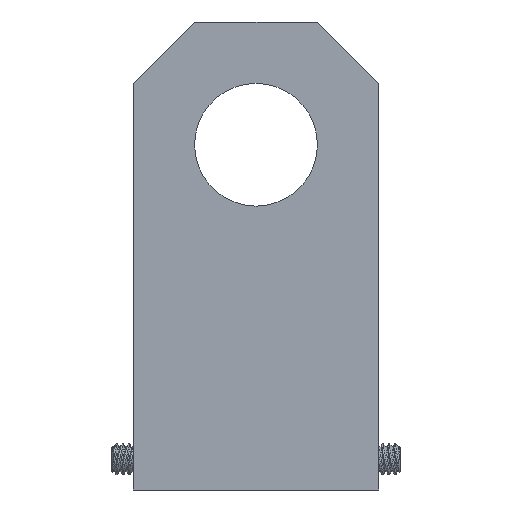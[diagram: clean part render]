
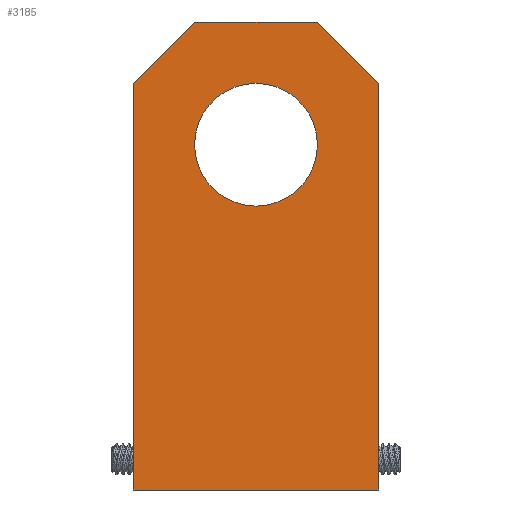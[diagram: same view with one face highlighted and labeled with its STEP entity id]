
A CAD part, left-side view. The second image highlights one B-rep face of the part: STEP entity #3185.
In plain terms, the highlighted planar face has unit normal (-1, 0, 0).
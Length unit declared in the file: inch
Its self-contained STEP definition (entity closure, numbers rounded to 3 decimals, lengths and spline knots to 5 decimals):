
#615 = CARTESIAN_POINT ( 'NONE',  ( 13.38908, 5.55097, 2.8125 ) ) ;
#619 = CARTESIAN_POINT ( 'NONE',  ( 13.38908, 5.05097, 3.3125 ) ) ;
#969 = CARTESIAN_POINT ( 'NONE',  ( 13.38908, 6.05097, 2.8125 ) ) ;
#970 = DIRECTION ( 'NONE',  ( 1., 0., 0. ) ) ;
#971 = DIRECTION ( 'NONE',  ( 0., 1., 0. ) ) ;
#982 = VERTEX_POINT ( 'NONE', #619 ) ;
#985 = VERTEX_POINT ( 'NONE', #615 ) ;
#992 = VERTEX_POINT ( 'NONE', #7402 ) ;
#1000 = VERTEX_POINT ( 'NONE', #7409 ) ;
#1004 = VERTEX_POINT ( 'NONE', #7413 ) ;
#1005 = VERTEX_POINT ( 'NONE', #7414 ) ;
#1006 = VERTEX_POINT ( 'NONE', #7415 ) ;
#1008 = VERTEX_POINT ( 'NONE', #7417 ) ;
#1073 = EDGE_LOOP ( 'NONE', ( #4963, #4964, #4965, #4966, #4967, #4968 ) ) ;
#1079 = EDGE_LOOP ( 'NONE', ( #4961, #4962 ) ) ;
#2736 = FACE_OUTER_BOUND ( 'NONE', #1073, .T. ) ;
#2738 = FACE_BOUND ( 'NONE', #1079, .T. ) ;
#2740 = VECTOR ( 'NONE', #3976, 39.37008 ) ;
#2741 = LINE ( 'NONE', #3966, #2740 ) ;
#3106 = CIRCLE ( 'NONE', #3639, 0.5 ) ;
#3138 = LINE ( 'NONE', #5222, #3146 ) ;
#3144 = VECTOR ( 'NONE', #5228, 39.37008 ) ;
#3146 = VECTOR ( 'NONE', #5223, 39.37008 ) ;
#3161 = LINE ( 'NONE', #5227, #3144 ) ;
#3177 = CIRCLE ( 'NONE', #3651, 0.5 ) ;
#3185 = ADVANCED_FACE ( 'NONE', ( #2738, #2736 ), #3963, .F. ) ;
#3190 = LINE ( 'NONE', #5249, #3192 ) ;
#3192 = VECTOR ( 'NONE', #5250, 39.37008 ) ;
#3198 = LINE ( 'NONE', #5244, #3200 ) ;
#3200 = VECTOR ( 'NONE', #5259, 39.37008 ) ;
#3212 = LINE ( 'NONE', #5350, #3226 ) ;
#3226 = VECTOR ( 'NONE', #5351, 39.37008 ) ;
#3600 = AXIS2_PLACEMENT_3D ( 'NONE', #3958, #3964, #3965 ) ;
#3639 = AXIS2_PLACEMENT_3D ( 'NONE', #969, #970, #971 ) ;
#3651 = AXIS2_PLACEMENT_3D ( 'NONE', #5232, #5234, #5235 ) ;
#3958 = CARTESIAN_POINT ( 'NONE',  ( 13.38908, 7.05097, 3.8125 ) ) ;
#3963 = PLANE ( 'NONE',  #3600 ) ;
#3964 = DIRECTION ( 'NONE',  ( 1., 0., 0. ) ) ;
#3965 = DIRECTION ( 'NONE',  ( 0., 1., 0. ) ) ;
#3966 = CARTESIAN_POINT ( 'NONE',  ( 13.38908, 7.05097, 3.8125 ) ) ;
#3976 = DIRECTION ( 'NONE',  ( 0., -1., 0. ) ) ;
#4961 = ORIENTED_EDGE ( 'NONE', *, *, #6066, .T. ) ;
#4962 = ORIENTED_EDGE ( 'NONE', *, *, #6040, .T. ) ;
#4963 = ORIENTED_EDGE ( 'NONE', *, *, #6064, .F. ) ;
#4964 = ORIENTED_EDGE ( 'NONE', *, *, #6076, .T. ) ;
#4965 = ORIENTED_EDGE ( 'NONE', *, *, #5861, .F. ) ;
#4966 = ORIENTED_EDGE ( 'NONE', *, *, #6072, .T. ) ;
#4967 = ORIENTED_EDGE ( 'NONE', *, *, #6091, .T. ) ;
#4968 = ORIENTED_EDGE ( 'NONE', *, *, #6062, .T. ) ;
#5222 = CARTESIAN_POINT ( 'NONE',  ( 13.38908, 7.05097, 0. ) ) ;
#5223 = DIRECTION ( 'NONE',  ( 0., -1., 0. ) ) ;
#5227 = CARTESIAN_POINT ( 'NONE',  ( 13.38908, 5.05097, 3.8125 ) ) ;
#5228 = DIRECTION ( 'NONE',  ( 0., 0., -1. ) ) ;
#5232 = CARTESIAN_POINT ( 'NONE',  ( 13.38908, 6.05097, 2.8125 ) ) ;
#5234 = DIRECTION ( 'NONE',  ( 1., 0., 0. ) ) ;
#5235 = DIRECTION ( 'NONE',  ( 0., 1., 0. ) ) ;
#5244 = CARTESIAN_POINT ( 'NONE',  ( 13.38908, 5.55097, 3.8125 ) ) ;
#5249 = CARTESIAN_POINT ( 'NONE',  ( 13.38908, 6.55097, 3.8125 ) ) ;
#5250 = DIRECTION ( 'NONE',  ( 0., 0.707, -0.707 ) ) ;
#5259 = DIRECTION ( 'NONE',  ( 0., 0.707, 0.707 ) ) ;
#5350 = CARTESIAN_POINT ( 'NONE',  ( 13.38908, 7.05097, 3.8125 ) ) ;
#5351 = DIRECTION ( 'NONE',  ( 0., 0., -1. ) ) ;
#5861 = EDGE_CURVE ( 'NONE', #1005, #992, #2741, .T. ) ;
#6040 = EDGE_CURVE ( 'NONE', #985, #1000, #3106, .T. ) ;
#6062 = EDGE_CURVE ( 'NONE', #1008, #1006, #3138, .T. ) ;
#6064 = EDGE_CURVE ( 'NONE', #982, #1006, #3161, .T. ) ;
#6066 = EDGE_CURVE ( 'NONE', #1000, #985, #3177, .T. ) ;
#6072 = EDGE_CURVE ( 'NONE', #1005, #1004, #3190, .T. ) ;
#6076 = EDGE_CURVE ( 'NONE', #982, #992, #3198, .T. ) ;
#6091 = EDGE_CURVE ( 'NONE', #1004, #1008, #3212, .T. ) ;
#7402 = CARTESIAN_POINT ( 'NONE',  ( 13.38908, 5.55097, 3.8125 ) ) ;
#7409 = CARTESIAN_POINT ( 'NONE',  ( 13.38908, 6.55097, 2.8125 ) ) ;
#7413 = CARTESIAN_POINT ( 'NONE',  ( 13.38908, 7.05097, 3.3125 ) ) ;
#7414 = CARTESIAN_POINT ( 'NONE',  ( 13.38908, 6.55097, 3.8125 ) ) ;
#7415 = CARTESIAN_POINT ( 'NONE',  ( 13.38908, 5.05097, 0. ) ) ;
#7417 = CARTESIAN_POINT ( 'NONE',  ( 13.38908, 7.05097, 0. ) ) ;
